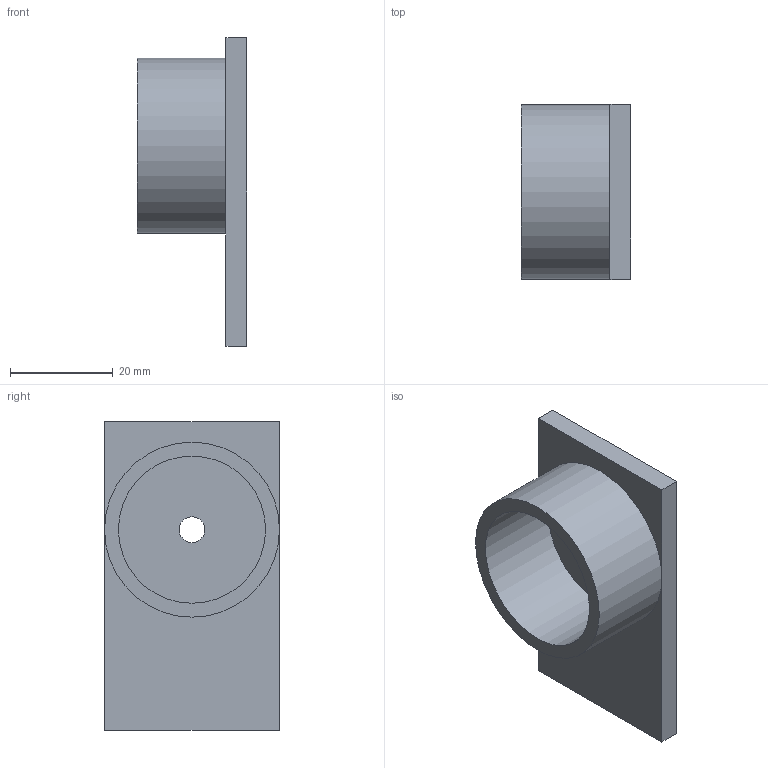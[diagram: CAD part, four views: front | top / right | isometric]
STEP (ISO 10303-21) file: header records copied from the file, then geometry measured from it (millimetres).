
FILE_DESCRIPTION(('FreeCAD Model'),'2;1');
FILE_NAME('Open CASCADE Shape Model','2026-11-06T11:24:15',('FreeCAD'),( 'FreeCAD'),'Open CASCADE STEP processor 7.8','FreeCAD','Unknown');
FILE_SCHEMA(('AUTOMOTIVE_DESIGN { 1 0 10303 214 1 1 1 1 }'));
Length unit declared in the file: millimetre
Products named in the file (1): Open CASCADE STEP translator 7.8 12
Bounding box: 21.2 x 34 x 60 mm (x, y, z)
Volume: 12648 mm3; surface area: 8238.2 mm2
Topology: 1 solids, 1 shells, 12 faces, 25 edges, 16 vertices
Faces by surface type: plane 9, cylinder 3
Full cylindrical faces by diameter (mm): 5 x1, 28.6 x1, 34 x1
Entity records: 335 total; most frequent: DIRECTION 59, CARTESIAN_POINT 54, ORIENTED_EDGE 50, EDGE_CURVE 25, AXIS2_PLACEMENT_3D 21, LINE 17, VECTOR 17, VERTEX_POINT 16
